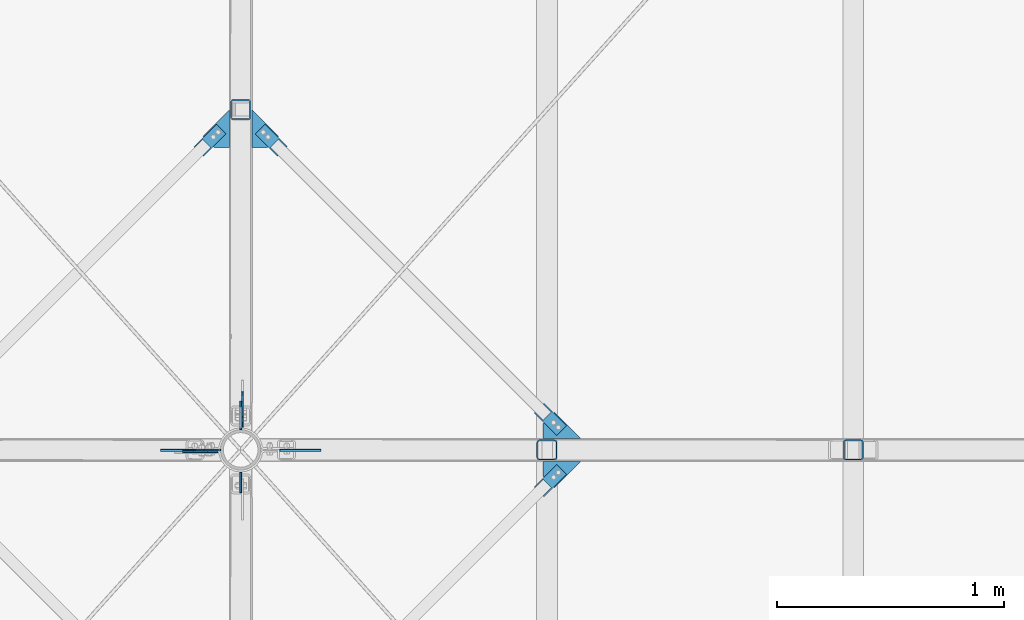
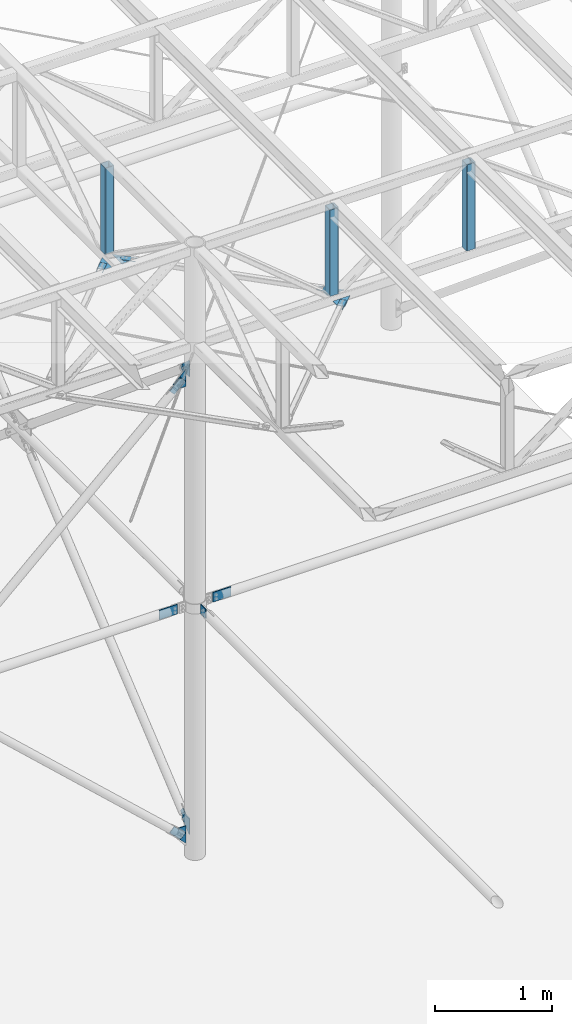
# One storey, part 82 of 132: 22 discrete accessories, 13 elements without a shape of their own.
"""IFC2X3 building model written with IfcOpenShell, lengths in millimetres."""

from ifc_helpers import new_model, si_unit, frame, origin_with_axes, origin_2d_with_axis, place, context, subcontext, project, spatial, polyline, rectangle, hollow_rectangle, outline, extrude, clip, halfspace, material, type_object, element, aggregate, save


model = new_model("IFC2X3")

# Units and contexts
model_context = context("Model", 3, precision=1e-05, world=origin_with_axes())
body_context = subcontext(model_context, "Body", "Model", "MODEL_VIEW")
ifc_project = project(units=[si_unit("LENGTHUNIT", "METRE", prefix="MILLI"), si_unit("AREAUNIT", "SQUARE_METRE"), si_unit("VOLUMEUNIT", "CUBIC_METRE"), si_unit("MASSUNIT", "GRAM", prefix="KILO"), si_unit("TIMEUNIT", "SECOND"), si_unit("PLANEANGLEUNIT", "RADIAN"), si_unit("SOLIDANGLEUNIT", "STERADIAN"), si_unit("THERMODYNAMICTEMPERATUREUNIT", "DEGREE_CELSIUS"), si_unit("LUMINOUSINTENSITYUNIT", "LUMEN")], contexts=[model_context])

# Site, building, storey
site_placement = place(None, origin_with_axes())
site = spatial("IfcSite", under=ifc_project, at=site_placement, Name="Budowa", CompositionType="ELEMENT")
building_placement = place(site_placement, origin_with_axes())
building = spatial("IfcBuilding", under=site, at=building_placement, Name="Undefined", CompositionType="ELEMENT")
storey_placement = place(building_placement, origin_with_axes())
storey = spatial("IfcBuildingStorey", under=building, at=storey_placement, Name="Undefined", CompositionType="ELEMENT", Elevation=0.0)

# Assembly, discrete accessory
assembly_1_placement = place(storey_placement, origin_with_axes())
assembly_1 = element("IfcElementAssembly", 1, at=assembly_1_placement, inside=storey, Name="Steel Assembly", AssemblyPlace="NOTDEFINED", PredefinedType="RIGID_FRAME")
ifc_material = material(Name="STEEL/S235")
discrete_accessory_type_1 = type_object("IfcDiscreteAccessoryType", Name="BLACHA")
discrete_accessory_1_placement = place(assembly_1_placement, frame((14998.1366941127, 11997.9999994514, 10116.0003779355), z_axis=(0.0, -1.0, 0.0), x_axis=(1.0, 0.0, 0.0)))
discrete_accessory_1 = element("IfcDiscreteAccessory", 2, at=discrete_accessory_1_placement, type_object=discrete_accessory_type_1, material=ifc_material, Name="BLACHA", ObjectType="BL8*100", context=body_context, shape_type="SweptSolid", body=[
    extrude(outline(polyline([(0.0, -50.0), (0.0, 50.0), (180.0, 50.0), (180.0, -50.0), (0.0, -50.0)])), frame((0.0, 0.0, -4.0), z_axis=(0.0, 0.0, 1.0), x_axis=(1.0, 0.0, 0.0)), (0.0, 0.0, 1.0), 8.0),
])
aggregate(assembly_1, [discrete_accessory_1])

assembly_2_placement = place(storey_placement, origin_with_axes())
assembly_2 = element("IfcElementAssembly", 3, at=assembly_2_placement, inside=storey, Name="Steel Assembly", AssemblyPlace="NOTDEFINED", PredefinedType="RIGID_FRAME")
discrete_accessory_2_placement = place(assembly_2_placement, frame((14824.9999972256, 11902.0043566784, 10066.0003759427), z_axis=(1.0, 0.0, 0.0), x_axis=(0.0, 0.0, 1.0)))
discrete_accessory_2 = element("IfcDiscreteAccessory", 4, at=discrete_accessory_2_placement, type_object=discrete_accessory_type_1, material=ifc_material, Name="BLACHA", ObjectType="BL8*90", context=body_context, shape_type="SweptSolid", body=[
    extrude(outline(polyline([(0.0, 0.0), (100.0, 0.0), (100.0, 89.9122619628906), (0.0, 89.9122619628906), (0.0, 0.0)])), frame((0.0, 0.0, -4.0), z_axis=(0.0, 0.0, 1.0), x_axis=(1.0, 0.0, 0.0)), (0.0, 0.0, 1.0), 8.0),
])
aggregate(assembly_2, [discrete_accessory_2])

assembly_3_placement = place(storey_placement, origin_with_axes())
assembly_3 = element("IfcElementAssembly", 5, at=assembly_3_placement, inside=storey, Name="Steel Assembly", AssemblyPlace="NOTDEFINED", PredefinedType="RIGID_FRAME")
discrete_accessory_3_placement = place(assembly_3_placement, frame((14651.863305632, 11997.9999994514, 10116.0003779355), z_axis=(0.0, 1.0, 0.0), x_axis=(-1.0, 0.0, 0.0)))
discrete_accessory_3 = element("IfcDiscreteAccessory", 6, at=discrete_accessory_3_placement, type_object=discrete_accessory_type_1, material=ifc_material, Name="BLACHA", ObjectType="BL8*100", context=body_context, shape_type="SweptSolid", body=[
    extrude(outline(polyline([(180.0, -50.0), (0.0, -50.0), (0.0, 50.0), (180.0, 50.0), (180.0, -50.0)])), frame((0.0, 0.0, -4.0), z_axis=(0.0, 0.0, 1.0), x_axis=(1.0, 0.0, 0.0)), (0.0, 0.0, 1.0), 8.0),
])
aggregate(assembly_3, [discrete_accessory_3])

assembly_4_placement = place(storey_placement, origin_with_axes())
assembly_4 = element("IfcElementAssembly", 7, at=assembly_4_placement, inside=storey, Name="Steel Assembly", AssemblyPlace="NOTDEFINED", PredefinedType="RIGID_FRAME")
discrete_accessory_4_placement = place(assembly_4_placement, frame((14832.9999999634, 12120.951207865, 7723.25167813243), z_axis=(0.0, 0.639165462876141, -0.769069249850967), x_axis=(0.0, 0.769069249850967, 0.639165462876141)))
discrete_accessory_4 = element("IfcDiscreteAccessory", 8, at=discrete_accessory_4_placement, type_object=discrete_accessory_type_1, material=ifc_material, Name="BLACHA", ObjectType="BL8*69", context=body_context, shape_type="SweptSolid", body=[
    extrude(rectangle(XDim=8.0, YDim=69.0, at=origin_2d_with_axis()), frame((149.999999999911, 0.0, 0.0), z_axis=(-1.0, 0.0, 0.0), x_axis=(0.0, -1.0, 0.0)), (0.0, 0.0, 1.0), 150.0),
])
aggregate(assembly_4, [discrete_accessory_4])

assembly_5_placement = place(storey_placement, origin_with_axes())
assembly_5 = element("IfcElementAssembly", 9, at=assembly_5_placement, inside=storey, Name="Steel Assembly", AssemblyPlace="NOTDEFINED", PredefinedType="RIGID_FRAME")
discrete_accessory_5_placement = place(assembly_5_placement, frame((14824.9999996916, 12088.9000000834, 7811.1548043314), z_axis=(1.0, 0.0, 0.0), x_axis=(0.0, 0.0, -1.0)))
discrete_accessory_5 = element("IfcDiscreteAccessory", 10, at=discrete_accessory_5_placement, type_object=discrete_accessory_type_1, material=ifc_material, Name="BLACHA", ObjectType="BL8*127", context=body_context, shape_type="SweptSolid", body=[
    extrude(outline(polyline([(0.0, 0.0), (165.901336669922, 0.0), (165.901336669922, 10.0), (60.7564697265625, 126.514472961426), (0.0, 76.0204086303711), (0.0, 0.0)])), frame((0.0, 0.0, -4.0), z_axis=(0.0, 0.0, 1.0), x_axis=(1.0, 0.0, 0.0)), (0.0, 0.0, 1.0), 8.0),
])

assembly_6_placement = place(storey_placement, origin_with_axes())
assembly_6 = element("IfcElementAssembly", 11, at=assembly_6_placement, inside=storey, Name="Steel Assembly", AssemblyPlace="NOTDEFINED", PredefinedType="RIGID_FRAME")
discrete_accessory_6_placement = place(assembly_6_placement, frame((14832.9999999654, 12120.9512117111, 12508.7489949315), z_axis=(0.0, -0.63916553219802, -0.769069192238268), x_axis=(0.0, 0.769069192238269, -0.639165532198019)))
discrete_accessory_6 = element("IfcDiscreteAccessory", 12, at=discrete_accessory_6_placement, type_object=discrete_accessory_type_1, material=ifc_material, Name="BLACHA", ObjectType="BL8*69", context=body_context, shape_type="SweptSolid", body=[
    extrude(rectangle(XDim=8.0, YDim=69.0, at=origin_2d_with_axis()), frame((149.999999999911, 0.0, 0.0), z_axis=(-1.0, 0.0, 0.0), x_axis=(0.0, -1.0, 0.0)), (0.0, 0.0, 1.0), 150.0),
])
aggregate(assembly_6, [discrete_accessory_6])

# Discrete accessory
discrete_accessory_7_placement = place(assembly_5_placement, frame((14824.9999999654, 12088.9000000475, 12586.7472155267), z_axis=(1.0, 0.0, 0.0), x_axis=(0.0, 0.0, -1.0)))
discrete_accessory_7 = element("IfcDiscreteAccessory", 13, at=discrete_accessory_7_placement, type_object=discrete_accessory_type_1, material=ifc_material, Name="BLACHA", ObjectType="BL8*127", context=body_context, shape_type="SweptSolid", body=[
    extrude(outline(polyline([(0.0, 0.0), (165.901336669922, 0.0), (165.901351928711, 76.0204010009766), (105.144889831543, 126.514472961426), (0.0, 10.0), (0.0, 0.0)])), frame((0.0, 0.0, -4.0), z_axis=(0.0, 0.0, 1.0), x_axis=(1.0, 0.0, 0.0)), (0.0, 0.0, 1.0), 8.0),
])

# Assembly, discrete accessory
assembly_7_placement = place(storey_placement, origin_with_axes())
assembly_7 = element("IfcElementAssembly", 14, at=assembly_7_placement, inside=storey, Name="Steel Assembly", AssemblyPlace="NOTDEFINED", PredefinedType="RIGID_FRAME")
discrete_accessory_8_placement = place(assembly_7_placement, frame((14702.689963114, 11991.9999973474, 7734.82920317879), z_axis=(0.678551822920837, 0.0, 0.734552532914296), x_axis=(-0.734552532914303, 0.0, 0.67855182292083)))
discrete_accessory_8 = element("IfcDiscreteAccessory", 15, at=discrete_accessory_8_placement, type_object=discrete_accessory_type_1, material=ifc_material, Name="BLACHA", ObjectType="BL8*69", context=body_context, shape_type="SweptSolid", body=[
    extrude(rectangle(XDim=8.0, YDim=69.0, at=origin_2d_with_axis()), frame((149.999999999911, 0.0, 0.0), z_axis=(-1.0, 0.0, 0.0), x_axis=(0.0, -1.0, 0.0)), (0.0, 0.0, 1.0), 150.0),
])
aggregate(assembly_7, [discrete_accessory_8])

# Discrete accessory
discrete_accessory_9_placement = place(assembly_5_placement, frame((14736.1000003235, 11999.9999973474, 7650.19203918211), z_axis=(0.0, -1.0, 0.0), x_axis=(0.0, 0.0, 1.0)))
discrete_accessory_9 = element("IfcDiscreteAccessory", 16, at=discrete_accessory_9_placement, type_object=discrete_accessory_type_1, material=ifc_material, Name="BLACHA", ObjectType="BL8*126", context=body_context, shape_type="SweptSolid", body=[
    extrude(outline(polyline([(0.0, 0.0), (174.721649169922, 0.0), (174.721649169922, 72.7169723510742), (116.692001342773, 126.322563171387), (0.0, 10.0), (0.0, 0.0)])), frame((0.0, 0.0, -4.0), z_axis=(0.0, 0.0, 1.0), x_axis=(1.0, 0.0, 0.0)), (0.0, 0.0, 1.0), 8.0),
])

# Assembly, discrete accessory
assembly_8_placement = place(storey_placement, origin_with_axes())
assembly_8 = element("IfcElementAssembly", 17, at=assembly_8_placement, inside=storey, Name="Steel Assembly", AssemblyPlace="NOTDEFINED", PredefinedType="RIGID_FRAME")
discrete_accessory_10_placement = place(assembly_8_placement, frame((14702.6899626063, 11991.9999976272, 12497.1715521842), z_axis=(-0.678551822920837, 0.0, 0.734552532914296), x_axis=(-0.734552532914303, 0.0, -0.67855182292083)))
discrete_accessory_10 = element("IfcDiscreteAccessory", 18, at=discrete_accessory_10_placement, type_object=discrete_accessory_type_1, material=ifc_material, Name="BLACHA", ObjectType="BL8*69", context=body_context, shape_type="SweptSolid", body=[
    extrude(rectangle(XDim=8.0, YDim=69.0, at=origin_2d_with_axis()), frame((149.999999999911, 0.0, 0.0), z_axis=(-1.0, 0.0, 0.0), x_axis=(0.0, -1.0, 0.0)), (0.0, 0.0, 1.0), 150.0),
])
aggregate(assembly_8, [discrete_accessory_10])

# Discrete accessory
discrete_accessory_11_placement = place(assembly_5_placement, frame((14736.1000002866, 11999.9999976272, 12407.0870645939), z_axis=(0.0, -1.0, 0.0), x_axis=(0.0, 0.0, 1.0)))
discrete_accessory_11 = element("IfcDiscreteAccessory", 19, at=discrete_accessory_11_placement, type_object=discrete_accessory_type_1, material=ifc_material, Name="BLACHA", ObjectType="BL8*126", context=body_context, shape_type="SweptSolid", body=[
    extrude(outline(polyline([(0.0, 0.0), (174.721649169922, 0.0), (174.721649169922, 10.0), (58.0296516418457, 126.322563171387), (0.0, 72.7169723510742), (0.0, 0.0)])), frame((0.0, 0.0, -4.0), z_axis=(0.0, 0.0, 1.0), x_axis=(1.0, 0.0, 0.0)), (0.0, 0.0, 1.0), 8.0),
])

aggregate(assembly_5, [discrete_accessory_5, discrete_accessory_7, discrete_accessory_9, discrete_accessory_11])

# Assembly, discrete accessory
assembly_9_placement = place(storey_placement, origin_with_axes())
assembly_9 = element("IfcElementAssembly", 20, at=assembly_9_placement, inside=storey, Name="Steel Assembly", AssemblyPlace="NOTDEFINED", PredefinedType="RIGID_FRAME")
discrete_accessory_12_placement = place(assembly_9_placement, frame((16119.3786418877, 12162.9949513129, 12830.0), z_axis=(0.0, 0.0, 1.0), x_axis=(0.707106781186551, -0.707106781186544, 0.0)))
discrete_accessory_12 = element("IfcDiscreteAccessory", 21, at=discrete_accessory_12_placement, type_object=discrete_accessory_type_1, material=ifc_material, Name="BLACHA", ObjectType="BL6*60", context=body_context, shape_type="SweptSolid", body=[
    extrude(outline(polyline([(0.0, 0.0), (139.99999999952, -6.2755134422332e-10), (139.99999999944, 59.9999999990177), (0.0, 60.0), (-8.00355337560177e-11, 54.9999999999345), (49.9999999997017, 54.9999999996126), (49.9999999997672, 4.99999999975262), (-8.73114913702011e-11, 5.00000000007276), (0.0, 0.0)])), frame((0.0, 0.0, -3.0), z_axis=(0.0, 0.0, 1.0), x_axis=(1.0, 0.0, 0.0)), (0.0, 0.0, 1.0), 6.0),
])

assembly_10_placement = place(storey_placement, origin_with_axes())
assembly_10 = element("IfcElementAssembly", 22, at=assembly_10_placement, inside=storey, Name="Steel Assembly", AssemblyPlace="NOTDEFINED", PredefinedType="RIGID_FRAME")
discrete_accessory_13_placement = place(assembly_10_placement, frame((16158.2695167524, 12050.000000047, 12824.0), z_axis=(0.0, 0.0, 1.0), x_axis=(1.0, 0.0, 0.0)))
discrete_accessory_13 = element("IfcDiscreteAccessory", 23, at=discrete_accessory_13_placement, type_object=discrete_accessory_type_1, material=ifc_material, Name="BLACHA", ObjectType="BL6*117", context=body_context, shape_type="SweptSolid", body=[
    extrude(outline(polyline([(0.0, 0.0), (166.027954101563, 0.0), (49.4974746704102, 116.530487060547), (0.0, 67.0330123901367), (0.0, 0.0)])), frame((0.0, 0.0, -3.0), z_axis=(0.0, 0.0, 1.0), x_axis=(1.0, 0.0, 0.0)), (0.0, 0.0, 1.0), 6.0),
])

# Discrete accessory
discrete_accessory_14_placement = place(assembly_9_placement, frame((15030.4213580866, 13336.8050488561, 12830.0), z_axis=(0.0, 0.0, 1.0), x_axis=(-0.707106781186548, 0.707106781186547, 0.0)))
discrete_accessory_14 = element("IfcDiscreteAccessory", 24, at=discrete_accessory_14_placement, type_object=discrete_accessory_type_1, material=ifc_material, Name="BLACHA", ObjectType="BL6*60", context=body_context, shape_type="SweptSolid", body=[
    extrude(outline(polyline([(0.0, 0.0), (139.99999999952, -6.2755134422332e-10), (139.99999999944, 59.9999999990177), (0.0, 60.0), (-8.00355337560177e-11, 54.9999999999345), (49.9999999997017, 54.9999999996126), (49.9999999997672, 4.99999999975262), (-8.73114913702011e-11, 5.00000000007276), (0.0, 0.0)])), frame((0.0, 0.0, -3.0), z_axis=(0.0, 0.0, 1.0), x_axis=(1.0, 0.0, 0.0)), (0.0, 0.0, 1.0), 6.0),
])

aggregate(assembly_9, [discrete_accessory_12, discrete_accessory_14])

# Assembly, discrete accessory
assembly_11_placement = place(storey_placement, origin_with_axes())
assembly_11 = element("IfcElementAssembly", 25, at=assembly_11_placement, inside=storey, Name="Steel Assembly", AssemblyPlace="NOTDEFINED", PredefinedType="RIGID_FRAME")
discrete_accessory_15_placement = place(assembly_11_placement, frame((14874.999999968, 13499.2974747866, 12824.0), z_axis=(0.0, 0.0, 1.0), x_axis=(0.0, -1.0, 0.0)))
discrete_accessory_15 = element("IfcDiscreteAccessory", 26, at=discrete_accessory_15_placement, type_object=discrete_accessory_type_1, material=ifc_material, Name="BLACHA", ObjectType="BL6*117", context=body_context, shape_type="SweptSolid", body=[
    extrude(outline(polyline([(0.0, 0.0), (166.027954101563, 0.0), (166.027954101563, 67.0330123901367), (116.530487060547, 116.530487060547), (0.0, 0.0)])), frame((0.0, 0.0, -3.0), z_axis=(0.0, 0.0, 1.0), x_axis=(1.0, 0.0, 0.0)), (0.0, 0.0, 1.0), 6.0),
])

assembly_12_placement = place(storey_placement, origin_with_axes())
assembly_12 = element("IfcElementAssembly", 27, at=assembly_12_placement, inside=storey, Name="Steel Assembly", AssemblyPlace="NOTDEFINED", PredefinedType="RIGID_FRAME")
discrete_accessory_16_placement = place(assembly_12_placement, frame((16162.005048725, 11794.5786419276, 12830.0), z_axis=(0.0, 0.0, 1.0), x_axis=(0.707106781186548, 0.707106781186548, 0.0)))
discrete_accessory_16 = element("IfcDiscreteAccessory", 28, at=discrete_accessory_16_placement, type_object=discrete_accessory_type_1, material=ifc_material, Name="BLACHA", ObjectType="BL6*60", context=body_context, shape_type="SweptSolid", body=[
    extrude(outline(polyline([(0.0, 0.0), (139.99999999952, -6.2755134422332e-10), (139.99999999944, 59.9999999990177), (0.0, 60.0), (-8.00355337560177e-11, 54.9999999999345), (49.9999999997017, 54.9999999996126), (49.9999999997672, 4.99999999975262), (-8.73114913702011e-11, 5.00000000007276), (0.0, 0.0)])), frame((0.0, 0.0, -3.0), z_axis=(0.0, 0.0, 1.0), x_axis=(1.0, 0.0, 0.0)), (0.0, 0.0, 1.0), 6.0),
])
aggregate(assembly_12, [discrete_accessory_16])

# Discrete accessory
discrete_accessory_17_placement = place(assembly_10_placement, frame((16324.4974746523, 11950.000000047, 12824.0), z_axis=(0.0, 0.0, 1.0), x_axis=(-1.0, 0.0, 0.0)))
discrete_accessory_17 = element("IfcDiscreteAccessory", 29, at=discrete_accessory_17_placement, type_object=discrete_accessory_type_1, material=ifc_material, Name="BLACHA", ObjectType="BL6*117", context=body_context, shape_type="SweptSolid", body=[
    extrude(outline(polyline([(0.0, 0.0), (166.027954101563, 0.0), (166.027954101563, 67.0330123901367), (116.530487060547, 116.530487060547), (0.0, 0.0)])), frame((0.0, 0.0, -3.0), z_axis=(0.0, 0.0, 1.0), x_axis=(1.0, 0.0, 0.0)), (0.0, 0.0, 1.0), 6.0),
])

# Assembly, discrete accessory
assembly_13_placement = place(storey_placement, origin_with_axes())
assembly_13 = element("IfcElementAssembly", 30, at=assembly_13_placement, inside=storey, Name="Steel Assembly", AssemblyPlace="NOTDEFINED", PredefinedType="RIGID_FRAME")
discrete_accessory_18_placement = place(assembly_13_placement, frame((14662.0050487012, 13294.3786419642, 12830.0), z_axis=(0.0, 0.0, 1.0), x_axis=(0.707106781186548, 0.707106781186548, 0.0)))
discrete_accessory_18 = element("IfcDiscreteAccessory", 31, at=discrete_accessory_18_placement, type_object=discrete_accessory_type_1, material=ifc_material, Name="BLACHA", ObjectType="BL6*60", context=body_context, shape_type="SweptSolid", body=[
    extrude(outline(polyline([(0.0, 0.0), (139.99999999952, -6.2755134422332e-10), (139.99999999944, 59.9999999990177), (0.0, 60.0), (-8.00355337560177e-11, 54.9999999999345), (49.9999999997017, 54.9999999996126), (49.9999999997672, 4.99999999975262), (-8.73114913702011e-11, 5.00000000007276), (0.0, 0.0)])), frame((0.0, 0.0, -3.0), z_axis=(0.0, 0.0, 1.0), x_axis=(1.0, 0.0, 0.0)), (0.0, 0.0, 1.0), 6.0),
])
aggregate(assembly_13, [discrete_accessory_18])

# Discrete accessory
discrete_accessory_19_placement = place(assembly_11_placement, frame((14774.999999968, 13333.2695168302, 12824.0), z_axis=(0.0, 0.0, 1.0), x_axis=(0.0, 1.0, 0.0)))
discrete_accessory_19 = element("IfcDiscreteAccessory", 32, at=discrete_accessory_19_placement, type_object=discrete_accessory_type_1, material=ifc_material, Name="BLACHA", ObjectType="BL6*117", context=body_context, shape_type="SweptSolid", body=[
    extrude(outline(polyline([(0.0, 0.0), (166.027954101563, 0.0), (49.4974746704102, 116.530487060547), (0.0, 67.0330123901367), (0.0, 0.0)])), frame((0.0, 0.0, -3.0), z_axis=(0.0, 0.0, 1.0), x_axis=(1.0, 0.0, 0.0)), (0.0, 0.0, 1.0), 6.0),
])

discrete_accessory_type_2 = type_object("IfcDiscreteAccessoryType", Name="BEAM")
discrete_accessory_20_placement = place(assembly_11_placement, frame((14824.999999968, 13500.000000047, 13780.0), z_axis=(1.0, 0.0, 0.0), x_axis=(0.0, 0.0, -1.0)))
discrete_accessory_20 = element("IfcDiscreteAccessory", 33, at=discrete_accessory_20_placement, type_object=discrete_accessory_type_2, material=ifc_material, Name="BEAM", ObjectType="SHS90*6", context=body_context, shape_type="Clipping", body=[
    clip(clip(extrude(hollow_rectangle(XDim=90.0, YDim=90.0, WallThickness=6.0, InnerFilletRadius=6.0, OuterFilletRadius=12.0, at=origin_2d_with_axis()), frame((900.0, 0.0, 0.0), z_axis=(-1.0, 0.0, 0.0), x_axis=(0.0, -1.0, 0.0)), (0.0, 0.0, 1.0), 900.0), halfspace(frame((900.0, 0.0, 1000.0), z_axis=(-1.0, 0.0, 0.0), x_axis=(0.0, -1.0, 0.0)), True)), halfspace(frame((0.0, 0.0, 1000.0), z_axis=(1.0, 0.0, 0.0), x_axis=(0.0, 1.0, 0.0)), True)),
])

aggregate(assembly_11, [discrete_accessory_15, discrete_accessory_19, discrete_accessory_20])

discrete_accessory_21_placement = place(assembly_10_placement, frame((16174.9999999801, 12000.000000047, 13780.0), z_axis=(0.0, -1.0, 0.0), x_axis=(0.0, 0.0, -1.0)))
discrete_accessory_21 = element("IfcDiscreteAccessory", 34, at=discrete_accessory_21_placement, type_object=discrete_accessory_type_2, material=ifc_material, Name="BEAM", ObjectType="SHS90*6", context=body_context, shape_type="Clipping", body=[
    clip(clip(extrude(hollow_rectangle(XDim=90.0, YDim=90.0, WallThickness=6.0, InnerFilletRadius=6.0, OuterFilletRadius=12.0, at=origin_2d_with_axis()), frame((900.0, 0.0, 0.0), z_axis=(-1.0, 0.0, 0.0), x_axis=(0.0, -1.0, 0.0)), (0.0, 0.0, 1.0), 900.0), halfspace(frame((900.0, 0.0, 1000.0), z_axis=(-1.0, 0.0, 0.0), x_axis=(0.0, -1.0, 0.0)), True)), halfspace(frame((0.0, 0.0, 1000.0), z_axis=(1.0, 0.0, 0.0), x_axis=(0.0, 1.0, 0.0)), True)),
])

discrete_accessory_22_placement = place(assembly_10_placement, frame((17524.9999999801, 12000.000000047, 13780.0), z_axis=(0.0, -1.0, 0.0), x_axis=(0.0, 0.0, -1.0)))
discrete_accessory_22 = element("IfcDiscreteAccessory", 35, at=discrete_accessory_22_placement, type_object=discrete_accessory_type_2, material=ifc_material, Name="BEAM", ObjectType="SHS90*6", context=body_context, shape_type="Clipping", body=[
    clip(clip(extrude(hollow_rectangle(XDim=90.0, YDim=90.0, WallThickness=6.0, InnerFilletRadius=6.0, OuterFilletRadius=12.0, at=origin_2d_with_axis()), frame((900.0, 0.0, 0.0), z_axis=(-1.0, 0.0, 0.0), x_axis=(0.0, -1.0, 0.0)), (0.0, 0.0, 1.0), 900.0), halfspace(frame((900.0, 0.0, 1000.0), z_axis=(-1.0, 0.0, 0.0), x_axis=(0.0, -1.0, 0.0)), True)), halfspace(frame((0.0, 0.0, 1000.0), z_axis=(1.0, 0.0, 0.0), x_axis=(0.0, 1.0, 0.0)), True)),
])

aggregate(assembly_10, [discrete_accessory_13, discrete_accessory_17, discrete_accessory_21, discrete_accessory_22])

save(model, "model.ifc")
